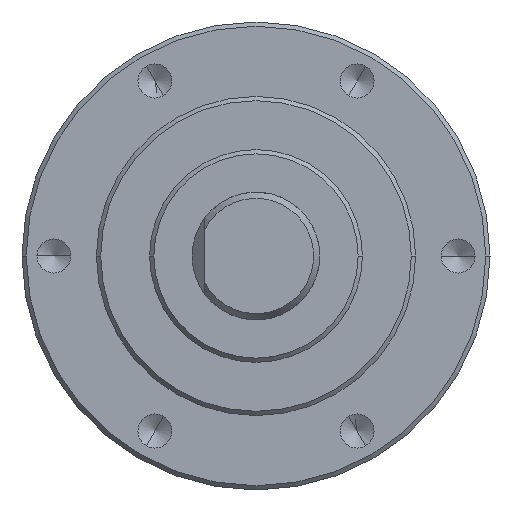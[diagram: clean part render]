
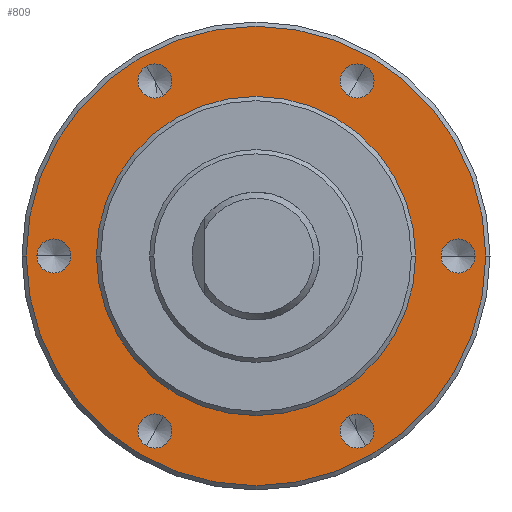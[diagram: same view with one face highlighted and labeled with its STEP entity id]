
A CAD part, left-side view. The second image highlights one B-rep face of the part: STEP entity #809.
In plain terms, the highlighted planar face has unit normal (-1, 0, 0).
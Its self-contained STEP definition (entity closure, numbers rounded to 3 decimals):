
#67=CARTESIAN_POINT('',(0.,0.,
0.));
#68=DIRECTION('',(-1.,0.,0.));
#69=DIRECTION('',(0.,1.,0.));
#70=AXIS2_PLACEMENT_3D('',#67,#68,#69);
#72=CARTESIAN_POINT('',(0.,0.,
0.));
#73=DIRECTION('',(-1.,0.,0.));
#74=DIRECTION('',(0.,-1.,0.));
#75=AXIS2_PLACEMENT_3D('',#72,#73,#74);
#77=CARTESIAN_POINT('',(0.,9.5,0.));
#78=DIRECTION('',(-1.,0.,0.));
#79=DIRECTION('',(0.,1.,0.));
#80=AXIS2_PLACEMENT_3D('',#77,#78,#79);
#82=CARTESIAN_POINT('',(0.,9.5,0.));
#83=DIRECTION('',(-1.,0.,0.));
#84=DIRECTION('',(0.,-1.,0.));
#85=AXIS2_PLACEMENT_3D('',#82,#83,#84);
#87=CARTESIAN_POINT('',(0.,4.75,8.227));
#88=DIRECTION('',(-1.,0.,0.));
#89=DIRECTION('',(0.,0.5,0.866));
#90=AXIS2_PLACEMENT_3D('',#87,#88,#89);
#92=CARTESIAN_POINT('',(0.,4.75,8.227));
#93=DIRECTION('',(-1.,0.,0.));
#94=DIRECTION('',(0.,-0.5,-0.866));
#95=AXIS2_PLACEMENT_3D('',#92,#93,#94);
#97=CARTESIAN_POINT('',(0.,-4.75,8.227));
#98=DIRECTION('',(-1.,0.,0.));
#99=DIRECTION('',(0.,-0.5,0.866));
#100=AXIS2_PLACEMENT_3D('',#97,#98,#99);
#102=CARTESIAN_POINT('',(0.,-4.75,8.227));
#103=DIRECTION('',(-1.,0.,0.));
#104=DIRECTION('',(0.,0.5,-0.866));
#105=AXIS2_PLACEMENT_3D('',#102,#103,#104);
#107=CARTESIAN_POINT('',(0.,-9.5,0.));
#108=DIRECTION('',(-1.,0.,0.));
#109=DIRECTION('',(0.,-1.,0.));
#110=AXIS2_PLACEMENT_3D('',#107,#108,#109);
#112=CARTESIAN_POINT('',(0.,-9.5,0.));
#113=DIRECTION('',(-1.,0.,0.));
#114=DIRECTION('',(0.,1.,0.));
#115=AXIS2_PLACEMENT_3D('',#112,#113,#114);
#117=CARTESIAN_POINT('',(0.,-4.75,-8.227));
#118=DIRECTION('',(-1.,0.,0.));
#119=DIRECTION('',(0.,-0.5,-0.866));
#120=AXIS2_PLACEMENT_3D('',#117,#118,#119);
#122=CARTESIAN_POINT('',(0.,-4.75,-8.227));
#123=DIRECTION('',(-1.,0.,0.));
#124=DIRECTION('',(0.,0.5,0.866));
#125=AXIS2_PLACEMENT_3D('',#122,#123,#124);
#127=CARTESIAN_POINT('',(0.,4.75,-8.227));
#128=DIRECTION('',(-1.,0.,0.));
#129=DIRECTION('',(0.,0.5,-0.866));
#130=AXIS2_PLACEMENT_3D('',#127,#128,#129);
#132=CARTESIAN_POINT('',(0.,4.75,-8.227));
#133=DIRECTION('',(-1.,0.,0.));
#134=DIRECTION('',(0.,-0.5,0.866));
#135=AXIS2_PLACEMENT_3D('',#132,#133,#134);
#142=CARTESIAN_POINT('',(0.,0.,0.));
#143=DIRECTION('',(1.,0.,0.));
#144=DIRECTION('',(0.,1.,0.));
#145=AXIS2_PLACEMENT_3D('',#142,#143,#144);
#297=CARTESIAN_POINT('',(0.,0.,0.));
#298=DIRECTION('',(-1.,0.,0.));
#299=DIRECTION('',(0.,1.,0.));
#300=AXIS2_PLACEMENT_3D('',#297,#298,#299);
#616=CARTESIAN_POINT('',(0.,7.5,0.));
#617=CARTESIAN_POINT('',(0.,-7.5,0.));
#618=VERTEX_POINT('',#616);
#619=VERTEX_POINT('',#617);
#662=CARTESIAN_POINT('',(0.,10.3,0.));
#663=CARTESIAN_POINT('',(0.,8.7,0.));
#664=VERTEX_POINT('',#662);
#665=VERTEX_POINT('',#663);
#666=CARTESIAN_POINT('',(0.,10.8,0.));
#667=CARTESIAN_POINT('',(0.,-10.8,0.));
#668=VERTEX_POINT('',#666);
#669=VERTEX_POINT('',#667);
#680=CARTESIAN_POINT('',(0.,5.15,8.92));
#681=CARTESIAN_POINT('',(0.,4.35,7.534));
#682=VERTEX_POINT('',#680);
#683=VERTEX_POINT('',#681);
#690=CARTESIAN_POINT('',(0.,-5.15,8.92));
#691=CARTESIAN_POINT('',(0.,-4.35,7.534));
#692=VERTEX_POINT('',#690);
#693=VERTEX_POINT('',#691);
#700=CARTESIAN_POINT('',(0.,-10.3,0.));
#701=CARTESIAN_POINT('',(0.,-8.7,0.));
#702=VERTEX_POINT('',#700);
#703=VERTEX_POINT('',#701);
#710=CARTESIAN_POINT('',(0.,-5.15,-8.92));
#711=CARTESIAN_POINT('',(0.,-4.35,-7.534));
#712=VERTEX_POINT('',#710);
#713=VERTEX_POINT('',#711);
#720=CARTESIAN_POINT('',(0.,5.15,-8.92));
#721=CARTESIAN_POINT('',(0.,4.35,-7.534));
#722=VERTEX_POINT('',#720);
#723=VERTEX_POINT('',#721);
#756=CARTESIAN_POINT('',(0.,0.,0.));
#757=DIRECTION('',(1.,0.,0.));
#758=DIRECTION('',(0.,-1.,0.));
#759=AXIS2_PLACEMENT_3D('',#756,#757,#758);
#760=PLANE('',#759);
#762=ORIENTED_EDGE('',*,*,#761,.F.);
#764=ORIENTED_EDGE('',*,*,#763,.F.);
#765=EDGE_LOOP('',(#762,#764));
#766=FACE_OUTER_BOUND('',#765,.F.);
#768=ORIENTED_EDGE('',*,*,#767,.F.);
#770=ORIENTED_EDGE('',*,*,#769,.T.);
#771=EDGE_LOOP('',(#768,#770));
#772=FACE_BOUND('',#771,.F.);
#774=ORIENTED_EDGE('',*,*,#773,.T.);
#776=ORIENTED_EDGE('',*,*,#775,.T.);
#777=EDGE_LOOP('',(#774,#776));
#778=FACE_BOUND('',#777,.F.);
#780=ORIENTED_EDGE('',*,*,#779,.T.);
#782=ORIENTED_EDGE('',*,*,#781,.T.);
#783=EDGE_LOOP('',(#780,#782));
#784=FACE_BOUND('',#783,.F.);
#786=ORIENTED_EDGE('',*,*,#785,.T.);
#788=ORIENTED_EDGE('',*,*,#787,.T.);
#789=EDGE_LOOP('',(#786,#788));
#790=FACE_BOUND('',#789,.F.);
#792=ORIENTED_EDGE('',*,*,#791,.T.);
#794=ORIENTED_EDGE('',*,*,#793,.T.);
#795=EDGE_LOOP('',(#792,#794));
#796=FACE_BOUND('',#795,.F.);
#798=ORIENTED_EDGE('',*,*,#797,.T.);
#800=ORIENTED_EDGE('',*,*,#799,.T.);
#801=EDGE_LOOP('',(#798,#800));
#802=FACE_BOUND('',#801,.F.);
#804=ORIENTED_EDGE('',*,*,#803,.T.);
#806=ORIENTED_EDGE('',*,*,#805,.T.);
#807=EDGE_LOOP('',(#804,#806));
#808=FACE_BOUND('',#807,.F.);
#809=ADVANCED_FACE('',(#766,#772,#778,#784,#790,#796,#802,#808),#760,.F.);
#71=CIRCLE('',#70,10.8);
#76=CIRCLE('',#75,10.8);
#81=CIRCLE('',#80,0.8);
#86=CIRCLE('',#85,0.8);
#91=CIRCLE('',#90,0.8);
#96=CIRCLE('',#95,0.8);
#101=CIRCLE('',#100,0.8);
#106=CIRCLE('',#105,0.8);
#111=CIRCLE('',#110,0.8);
#116=CIRCLE('',#115,0.8);
#121=CIRCLE('',#120,0.8);
#126=CIRCLE('',#125,0.8);
#131=CIRCLE('',#130,0.8);
#136=CIRCLE('',#135,0.8);
#146=CIRCLE('',#145,7.5);
#301=CIRCLE('',#300,7.5);
#761=EDGE_CURVE('',#668,#669,#71,.T.);
#763=EDGE_CURVE('',#669,#668,#76,.T.);
#767=EDGE_CURVE('',#618,#619,#146,.T.);
#769=EDGE_CURVE('',#618,#619,#301,.T.);
#773=EDGE_CURVE('',#664,#665,#81,.T.);
#775=EDGE_CURVE('',#665,#664,#86,.T.);
#779=EDGE_CURVE('',#682,#683,#91,.T.);
#781=EDGE_CURVE('',#683,#682,#96,.T.);
#785=EDGE_CURVE('',#692,#693,#101,.T.);
#787=EDGE_CURVE('',#693,#692,#106,.T.);
#791=EDGE_CURVE('',#702,#703,#111,.T.);
#793=EDGE_CURVE('',#703,#702,#116,.T.);
#797=EDGE_CURVE('',#712,#713,#121,.T.);
#799=EDGE_CURVE('',#713,#712,#126,.T.);
#803=EDGE_CURVE('',#722,#723,#131,.T.);
#805=EDGE_CURVE('',#723,#722,#136,.T.);
